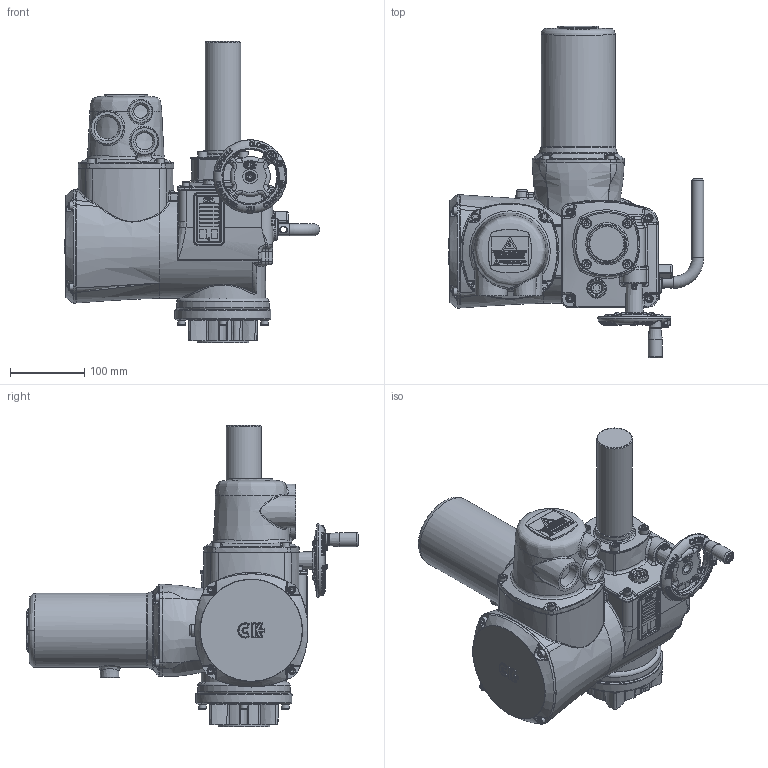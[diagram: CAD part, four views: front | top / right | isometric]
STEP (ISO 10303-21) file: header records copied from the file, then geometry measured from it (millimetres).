
FILE_DESCRIPTION(/* description */ ('Unknown'),/* implementation_level */ '2;1');
FILE_NAME(/* name */ 'A100N0SS00X-2',/* time_stamp */ '2018-04-10T12:26:40+06:00',/* author */ ('Unknown'),/* organization */ ('Unknown'),/* preprocessor_version */ 'ST-DEVELOPER v16.7',/* originating_system */ 'DEX',/* authorisation */ $);
FILE_SCHEMA (('AUTOMOTIVE_DESIGN {1 0 10303 214 3 1 1}'));
Length unit declared in the file: millimetre
Products named in the file (1): A100N0SS00
Bounding box: 344.66 x 448 x 406.25 mm (x, y, z)
Volume: 43846.2 mm3; surface area: 463968.9 mm2
Topology: 32 solids, 33 shells, 5327 faces, 12743 edges, 7709 vertices
Faces by surface type: plane 2111, bspline 1582, cylinder 824, cone 291, sphere 266, torus 253
Full cylindrical faces by diameter (mm): 3 x2, 4 x2, 4.917 x4, 6 x4, 6.4 x1, 6.45 x4, 6.47 x4, 6.5 x4, 6.647 x1, 7 x4, 8 x6, 8.2 x1, 8.376 x8, 8.5 x4, 9 x4, 10 x23, 10.22 x4, 10.8 x4, 12 x1, 13 x10, 13.5 x1, 14 x1, 14.5 x4, 15.5 x1, 16 x5, 18.376 x1, 19 x1, 20 x1, 23.376 x1, 24 x2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
Entity records: 248387 total; most frequent: CARTESIAN_POINT 103417, ORIENTED_EDGE 24260, DIRECTION 18021, EDGE_CURVE 12130, VERTEX_POINT 7541, AXIS2_PLACEMENT_3D 6523, FACE_BOUND 6041, EDGE_LOOP 6008
